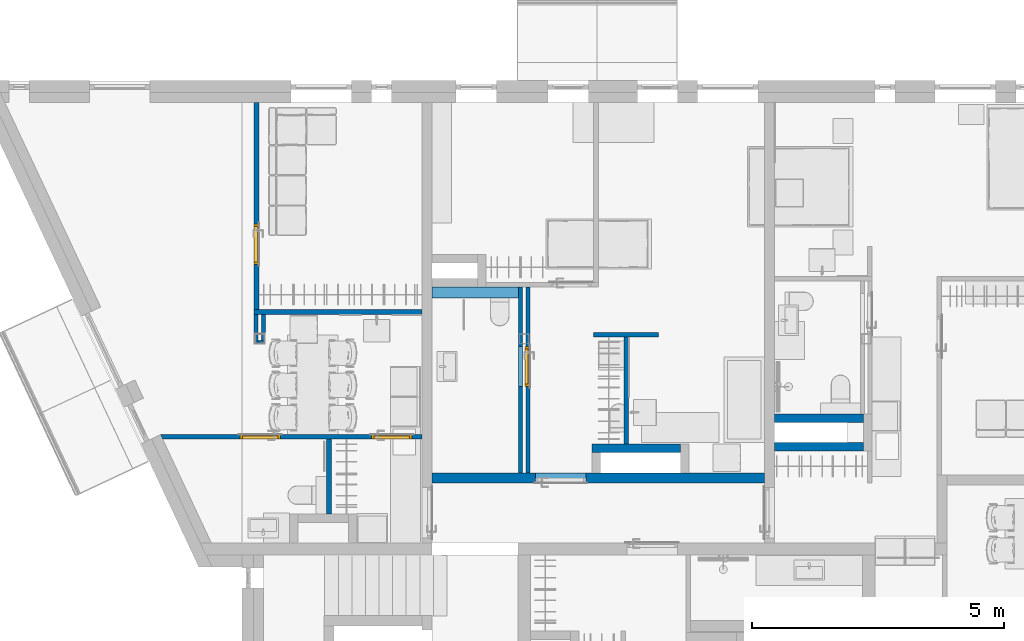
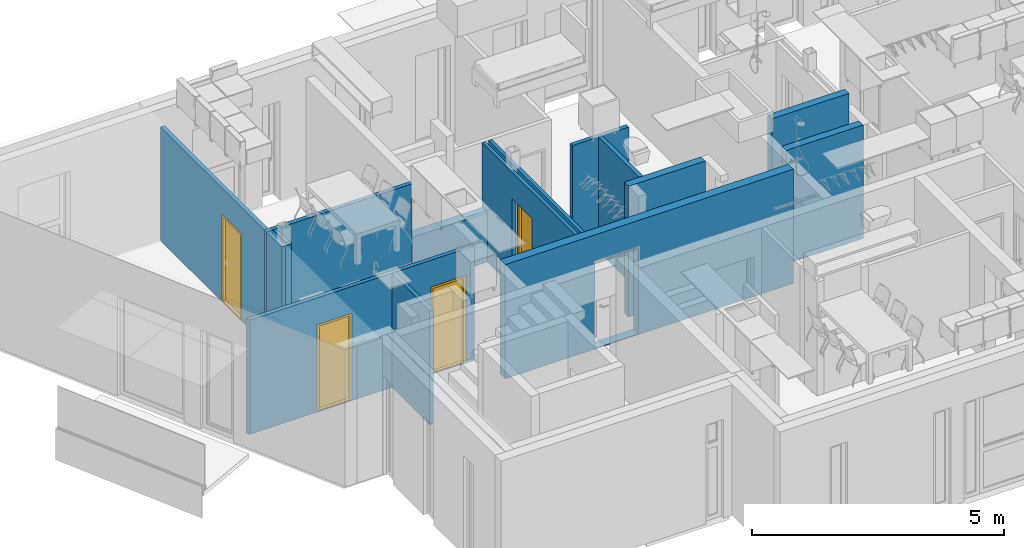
# One storey, part 5 of 68: 16 walls, 4 doors, 6 openings.
"""IFC2X3 building model written with IfcOpenShell, lengths in millimetres."""

from ifc_helpers import new_model, entity, si_unit, converted_unit, direction, frame, frame_2d, origin, place, context, subcontext, project, spatial, polyline, rectangle, outline, extrude, faceted_brep, source, transform, mapped, material, layer, layer_set, layer_usage, type_object, type_shapes, element, fill, save


model = new_model("IFC2X3")

# Units and contexts
model_context = context("Model", 3, precision=0.01, world=origin(), true_north=direction((6.123233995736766e-17, 1.0)))
plan_context = context("Plan", 3, precision=0.01, world=origin(), true_north=direction((6.123233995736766e-17, 1.0)))
body_context = subcontext(model_context, "Body", "Model", "MODEL_VIEW")
ifc_project = project(units=[si_unit("LENGTHUNIT", "METRE", prefix="MILLI"), converted_unit("PLANEANGLEUNIT", "DEGREE", entity("IfcPlaneAngleMeasure", 0.017453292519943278), si_unit("PLANEANGLEUNIT", "RADIAN"), dimensions=[0, 0, 0, 0, 0, 0, 0]), si_unit("AREAUNIT", "SQUARE_METRE")], contexts=[model_context, plan_context])

# Site, building, storey
site_placement = place(None, origin())
site = spatial("IfcSite", under=ifc_project, at=site_placement, Name="Default", CompositionType="ELEMENT")
building_placement = place(site_placement, origin())
building = spatial("IfcBuilding", under=site, at=building_placement, CompositionType="ELEMENT")
storey_placement = place(building_placement, frame((0.0, 0.0, 6295.0)))
storey = spatial("IfcBuildingStorey", under=building, at=storey_placement, Name="3K", CompositionType="ELEMENT", Elevation=6294.999999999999)

# Wall, opening
ifc_material_1 = material(Name="_K. Väisviimistlus. Krohv. Valge")
ifc_layer_1 = layer(ifc_material_1, 5.0)
ifc_material_2 = material(Name="_K. Müüritis. Väikeplokk. Betoon-õõnesplokk")
ifc_layer_2 = layer(ifc_material_2, 190.00000000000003)
ifc_layer_3 = layer(ifc_material_1, 5.0)
ifc_layer_set_1 = layer_set([ifc_layer_1, ifc_layer_2, ifc_layer_3], Name="Basic Wall:SS-01. 190")
ifc_layer_usage_1 = layer_usage(ifc_layer_set_1, "AXIS2", "NEGATIVE", 100.00000000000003)
wall_type_1 = type_object("IfcWallType", Name="Basic Wall:SS-01. 190", PredefinedType="STANDARD", material=ifc_layer_set_1)
wall_1_placement = place(storey_placement, frame((3344.993534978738, 7940.0, -20.0)))
wall_1 = element("IfcWallStandardCase", 1, at=wall_1_placement, inside=storey, type_object=wall_type_1, material=ifc_layer_usage_1, Name="Basic Wall:SS-01. 190", ObjectType="Basic Wall:SS-01. 190", context=body_context, shape_type="SweptSolid", body=[
    extrude(rectangle(XDim=199.99999999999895, YDim=6605.00646502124, at=frame_2d((-60.00000000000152, -421.4980604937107), x_axis=(1.0, 0.0))), frame((2881.00517201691, 60.0, 0.0), z_axis=(0.0, 0.0, 1.0), x_axis=(0.0, 1.0, 0.0)), (0.0, 0.0, 1.0), 2770.000076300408),
])
opening_1_placement = place(storey_placement, frame((3344.993534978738, 7940.0, -20.0)))
element("IfcOpeningElement", 2, at=opening_1_placement, cuts=wall_1, Name="Basic Wall:SS-01. 190:1", ObjectType="Opening", context=body_context, shape_type="SweptSolid", body=[
    extrude(rectangle(XDim=2100.0, YDim=999.999999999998, at=frame_2d((5.684341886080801e-13, 1.0800249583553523e-12), x_axis=(1.0, 0.0))), frame((2559.0064650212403, -100.0, 1070.0), z_axis=(0.0, 1.0, 0.0), x_axis=(0.0, 0.0, 1.0)), (0.0, 0.0, 1.0), 200.0),
])

# Wall
ifc_material_3 = material(Name="_K. Ehitusplaat. Kipsplaat. Erikõva")
ifc_layer_4 = layer(ifc_material_3, 13.000000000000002)
ifc_material_4 = material(Name="_K. Soojustus. Mineraalvill")
ifc_layer_5 = layer(ifc_material_4, 66.0)
ifc_layer_6 = layer(ifc_material_3, 13.000000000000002)
ifc_layer_set_2 = layer_set([ifc_layer_4, ifc_layer_5, ifc_layer_6], Name="Basic Wall:SS-401")
ifc_layer_usage_2 = layer_usage(ifc_layer_set_2, "AXIS2", "NEGATIVE", 46.00000000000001)
wall_type_2 = type_object("IfcWallType", Name="Basic Wall:SS-401", PredefinedType="STANDARD", material=ifc_layer_set_2)
wall_2_placement = place(storey_placement, frame((-188.01000000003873, 11233.0, -20.0)))
element("IfcWallStandardCase", 3, at=wall_2_placement, inside=storey, type_object=wall_type_2, material=ifc_layer_usage_2, Name="Basic Wall:SS-401", ObjectType="Basic Wall:SS-401", context=body_context, shape_type="SweptSolid", body=[
    extrude(rectangle(XDim=3333.0035349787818, YDim=92.00000000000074, at=frame_2d((1666.5017674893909, 3.304023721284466e-13), x_axis=(-1.0, 0.0))), origin(), (0.0, 0.0, 1.0), 2769.999999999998),
])

# Wall, openings, doors
ifc_layer_usage_3 = layer_usage(ifc_layer_set_2, "AXIS2", "NEGATIVE", 46.00000000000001)
wall_3_placement = place(storey_placement, frame((-2047.3824971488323, 8752.0, -20.0)))
wall_3 = element("IfcWallStandardCase", 4, at=wall_3_placement, inside=storey, type_object=wall_type_2, material=ifc_layer_usage_3, Name="Basic Wall:SS-401", ObjectType="Basic Wall:SS-401", context=body_context, shape_type="SweptSolid", body=[
    extrude(outline(polyline([(5192.37603212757, -46.0), (5192.37603212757, 46.0), (0.0, 46.0), (43.12499997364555, -46.0), (3300.376032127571, -46.0), (3392.3760321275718, -46.0), (5192.37603212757, -46.0)])), origin(), (0.0, 0.0, 1.0), 2769.999999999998),
])
opening_2_placement = place(wall_3_placement, frame((2047.3824971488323, -8752.0, 20.0)))
opening_2 = element("IfcOpeningElement", 5, at=opening_2_placement, cuts=wall_3, Name="Basic Wall:SS-401", ObjectType="Opening", context=body_context, shape_type="Brep", body=[
    faceted_brep([(334.9935349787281, 7706.0, 2100.0), (-465.0064650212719, 7706.0, 2100.0), (-465.0064650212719, 7706.0, 0.0), (334.99353497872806, 7706.0, 0.0), (334.99353497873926, 9798.0, 0.0), (334.99353497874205, 9798.0, 2100.0), (-465.0064650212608, 9798.0, 0.0), (-465.0064650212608, 9798.0, 2100.0)], [[[0, 1, 2, 3]], [[3, 4, 5, 0]], [[2, 6, 4, 3]], [[1, 7, 6, 2]], [[5, 7, 1, 0]], [[7, 5, 4, 6]]]),
])
opening_3_placement = place(wall_3_placement, frame((2047.3824971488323, -8752.0, 20.0)))
opening_3 = element("IfcOpeningElement", 6, at=opening_3_placement, cuts=wall_3, Name="Basic Wall:SS-401", ObjectType="Opening", context=body_context, shape_type="Brep", body=[
    faceted_brep([(2944.9935349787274, 7706.0, 2100.0), (2144.9935349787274, 7706.0, 2100.0), (2144.9935349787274, 7706.0, 0.0), (2944.9935349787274, 7706.0, 0.0), (2944.9935349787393, 9798.0, 0.0), (2944.993534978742, 9798.0, 2100.0), (2144.9935349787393, 9798.0, 0.0), (2144.9935349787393, 9798.0, 2100.0)], [[[0, 1, 2, 3]], [[3, 4, 5, 0]], [[2, 6, 4, 3]], [[1, 7, 6, 2]], [[5, 7, 1, 0]], [[7, 5, 4, 6]]]),
])
ifc_material_5 = material(Name="_K. Puit. Peitsitud ja lakitud")
door_style_1 = type_object("IfcDoorStyle", Name="HR_Generic_Hinged_Single:Default. Manteluks lävepakuga. 800 x 2100 mm. Left", ConstructionType="NOTDEFINED", OperationType="NOTDEFINED", ParameterTakesPrecedence=False, Sizeable=False, material=ifc_material_5)
shared_shape_1 = source(origin(), body_context, "Body", "Brep", [
    faceted_brep([(765.0, -1000.0, 20.0), (35.0, -1000.0, 20.0), (35.0, -1030.0, 20.0), (50.0, -1030.0, 20.0), (50.0, -1092.0, 20.0), (750.0, -1092.0, 20.0), (750.0, -1030.0, 20.0), (765.0, -1030.0, 20.0), (35.0, -1000.0, 0.0), (765.0, -1000.0, 0.0), (765.0, -1030.0, 0.0), (750.0, -1030.0, 0.0), (750.0, -1092.0, 0.0), (50.0, -1092.0, 0.0), (50.0, -1030.0, 0.0), (35.0, -1030.0, 0.0)], [[[0, 1, 2, 3, 4, 5, 6, 7]], [[8, 9, 10, 11, 12, 13, 14, 15]], [[1, 0, 9, 8]], [[5, 4, 13, 12]], [[2, 1, 8, 15]], [[0, 7, 10, 9]], [[3, 14, 13, 4]], [[14, 3, 2, 15]], [[6, 11, 10, 7]], [[11, 6, 5, 12]]]),
    faceted_brep([(37.0, -1030.0, 2060.0), (37.0, -1030.0, 25.0), (763.0, -1030.0, 25.0), (763.0, -1030.0, 2060.0), (27.0, -990.0, 25.0), (27.0, -990.0, 2070.0), (773.0, -990.0, 2070.0), (773.0, -990.0, 25.0), (37.0, -1000.0, 2060.0), (37.0, -1000.0, 25.0), (27.0, -1000.0, 25.0), (773.0, -1000.0, 25.0), (763.0, -1000.0, 25.0), (763.0, -1000.0, 2060.0), (27.0, -1000.0, 2070.0), (773.0, -1000.0, 2070.0)], [[[0, 1, 2, 3]], [[4, 5, 6, 7]], [[1, 0, 8, 9]], [[2, 1, 9, 10, 4, 7, 11, 12]], [[3, 2, 12, 13]], [[0, 3, 13, 8]], [[14, 10, 9, 8, 13, 12, 11, 15]], [[6, 5, 14, 15]], [[7, 6, 15, 11]], [[5, 4, 10, 14]]]),
    faceted_brep([(800.0, -1092.0, 0.0), (750.0, -1092.0, 0.0), (750.0, -1030.0, 0.0), (765.0, -1030.0, 0.0), (765.0, -1000.0, 0.0), (800.0, -1000.0, 0.0), (800.0, -1092.0, 2100.0), (0.0, -1092.0, 2100.0), (0.0, -1092.0, 0.0), (50.0, -1092.0, 0.0), (50.0, -1092.0, 2050.0), (750.0, -1092.0, 2050.0), (750.0, -1030.0, 2050.0), (35.0, -1030.0, 2065.0), (765.0, -1030.0, 2065.0), (50.0, -1030.0, 2050.0), (50.0, -1030.0, 0.0), (35.0, -1030.0, 0.0), (765.0, -1000.0, 2065.0), (0.0, -1000.0, 0.0), (0.0, -1000.0, 2100.0), (800.0, -1000.0, 2100.0), (35.0, -1000.0, 2065.0), (35.0, -1000.0, 0.0)], [[[0, 1, 2, 3, 4, 5]], [[1, 0, 6, 7, 8, 9, 10, 11]], [[1, 11, 12, 2]], [[13, 14, 3, 2, 12, 15, 16, 17]], [[3, 14, 18, 4]], [[19, 20, 21, 5, 4, 18, 22, 23]], [[0, 5, 21, 6]], [[8, 19, 23, 17, 16, 9]], [[19, 8, 7, 20]], [[13, 17, 23, 22]], [[10, 9, 16, 15]], [[7, 6, 21, 20]], [[11, 10, 15, 12]], [[14, 13, 22, 18]]]),
])
type_shapes(door_style_1, [shared_shape_1])
door_1_placement = place(opening_3_placement, frame((2144.993534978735, 9798.0, 0.0)))
door_1 = element("IfcDoor", 7, at=door_1_placement, inside=storey, type_object=door_style_1, material=ifc_material_5, Name="HR_Generic_Hinged_Single:Default. Manteluks lävepakuga. 800 x 2100 mm. Left", ObjectType="HR_Generic_Hinged_Single:Default. Manteluks lävepakuga. 800 x 2100 mm. Left", OverallHeight=2130.000000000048, OverallWidth=860.0000000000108, context=body_context, shape_type="MappedRepresentation", body=[
    mapped(shared_shape_1, transform((0.0, 0.0, 0.0), scale=1.0)),
])
fill(opening_3, door_1)
door_style_2 = type_object("IfcDoorStyle", Name="HR_Generic_Hinged_Single:Default. Manteluks lävepakuga. 800 x 2100 mm. Right", ConstructionType="NOTDEFINED", OperationType="NOTDEFINED", ParameterTakesPrecedence=False, Sizeable=False, material=ifc_material_5)
shared_shape_2 = source(origin(), body_context, "Body", "Brep", [
    faceted_brep([(765.0, -1000.0, 20.0), (35.0, -1000.0, 20.0), (35.0, -1030.0, 20.0), (50.0, -1030.0, 20.0), (50.0, -1092.0, 20.0), (750.0, -1092.0, 20.0), (750.0, -1030.0, 20.0), (765.0, -1030.0, 20.0), (35.0, -1000.0, 0.0), (765.0, -1000.0, 0.0), (765.0, -1030.0, 0.0), (750.0, -1030.0, 0.0), (750.0, -1092.0, 0.0), (50.0, -1092.0, 0.0), (50.0, -1030.0, 0.0), (35.0, -1030.0, 0.0)], [[[0, 1, 2, 3, 4, 5, 6, 7]], [[8, 9, 10, 11, 12, 13, 14, 15]], [[1, 0, 9, 8]], [[5, 4, 13, 12]], [[2, 1, 8, 15]], [[0, 7, 10, 9]], [[3, 14, 13, 4]], [[14, 3, 2, 15]], [[6, 11, 10, 7]], [[11, 6, 5, 12]]]),
    faceted_brep([(37.0, -1030.0, 2060.0), (37.0, -1030.0, 25.0), (763.0, -1030.0, 25.0), (763.0, -1030.0, 2060.0), (27.0, -990.0, 25.0), (27.0, -990.0, 2070.0), (773.0, -990.0, 2070.0), (773.0, -990.0, 25.0), (37.0, -1000.0, 2060.0), (37.0, -1000.0, 25.0), (27.0, -1000.0, 25.0), (773.0, -1000.0, 25.0), (763.0, -1000.0, 25.0), (763.0, -1000.0, 2060.0), (27.0, -1000.0, 2070.0), (773.0, -1000.0, 2070.0)], [[[0, 1, 2, 3]], [[4, 5, 6, 7]], [[1, 0, 8, 9]], [[2, 1, 9, 10, 4, 7, 11, 12]], [[3, 2, 12, 13]], [[0, 3, 13, 8]], [[14, 10, 9, 8, 13, 12, 11, 15]], [[6, 5, 14, 15]], [[7, 6, 15, 11]], [[5, 4, 10, 14]]]),
    faceted_brep([(800.0, -1092.0, 0.0), (750.0, -1092.0, 0.0), (750.0, -1030.0, 0.0), (765.0, -1030.0, 0.0), (765.0, -1000.0, 0.0), (800.0, -1000.0, 0.0), (800.0, -1092.0, 2100.0), (0.0, -1092.0, 2100.0), (0.0, -1092.0, 0.0), (50.0, -1092.0, 0.0), (50.0, -1092.0, 2050.0), (750.0, -1092.0, 2050.0), (750.0, -1030.0, 2050.0), (35.0, -1030.0, 2065.0), (765.0, -1030.0, 2065.0), (50.0, -1030.0, 2050.0), (50.0, -1030.0, 0.0), (35.0, -1030.0, 0.0), (765.0, -1000.0, 2065.0), (0.0, -1000.0, 0.0), (0.0, -1000.0, 2100.0), (800.0, -1000.0, 2100.0), (35.0, -1000.0, 2065.0), (35.0, -1000.0, 0.0)], [[[0, 1, 2, 3, 4, 5]], [[1, 0, 6, 7, 8, 9, 10, 11]], [[1, 11, 12, 2]], [[13, 14, 3, 2, 12, 15, 16, 17]], [[3, 14, 18, 4]], [[19, 20, 21, 5, 4, 18, 22, 23]], [[0, 5, 21, 6]], [[8, 19, 23, 17, 16, 9]], [[19, 8, 7, 20]], [[13, 17, 23, 22]], [[10, 9, 16, 15]], [[7, 6, 21, 20]], [[11, 10, 15, 12]], [[14, 13, 22, 18]]]),
])
type_shapes(door_style_2, [shared_shape_2])
door_2_placement = place(opening_2_placement, frame((-465.0064650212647, 9798.0, 0.0)))
door_2 = element("IfcDoor", 8, at=door_2_placement, inside=storey, type_object=door_style_2, material=ifc_material_5, Name="HR_Generic_Hinged_Single:Default. Manteluks lävepakuga. 800 x 2100 mm. Right", ObjectType="HR_Generic_Hinged_Single:Default. Manteluks lävepakuga. 800 x 2100 mm. Right", OverallHeight=2130.000000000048, OverallWidth=860.0000000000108, context=body_context, shape_type="MappedRepresentation", body=[
    mapped(shared_shape_2, transform((0.0, 0.0, 0.0), scale=1.0)),
])
fill(opening_2, door_2)

# Walls
ifc_layer_usage_4 = layer_usage(ifc_layer_set_2, "AXIS2", "NEGATIVE", 46.00000000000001)
wall_4_placement = place(storey_placement, frame((1298.9935349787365, 7220.0, -20.0), z_axis=(0.0, 0.0, 1.0), x_axis=(0.0, 1.0, 0.0)))
element("IfcWallStandardCase", 9, at=wall_4_placement, inside=storey, type_object=wall_type_2, material=ifc_layer_usage_4, Name="Basic Wall:SS-401", ObjectType="Basic Wall:SS-401", context=body_context, shape_type="SweptSolid", body=[
    extrude(rectangle(XDim=1485.9999999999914, YDim=92.0000000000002, at=frame_2d((742.9999999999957, 2.1316282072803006e-14), x_axis=(-1.0, 0.0))), origin(), (0.0, 0.0, 1.0), 2769.999999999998),
])
ifc_layer_usage_5 = layer_usage(ifc_layer_set_2, "AXIS2", "NEGATIVE", 46.00000000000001)
wall_5_placement = place(storey_placement, frame((7204.0, 8610.0, -20.0), z_axis=(0.0, 0.0, 1.0), x_axis=(0.0, 1.0, 0.0)))
element("IfcWallStandardCase", 10, at=wall_5_placement, inside=storey, type_object=wall_type_2, material=ifc_layer_usage_5, Name="Basic Wall:SS-401", ObjectType="Basic Wall:SS-401", context=body_context, shape_type="SweptSolid", body=[
    extrude(rectangle(XDim=2127.999999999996, YDim=92.00000000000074, at=frame_2d((1063.999999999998, -3.872457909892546e-13), x_axis=(-1.0, 0.0))), origin(), (0.0, 0.0, 1.0), 2769.999999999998),
])
ifc_layer_usage_6 = layer_usage(ifc_layer_set_2, "AXIS2", "NEGATIVE", 46.00000000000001)
wall_6_placement = place(storey_placement, frame((6558.0, 10784.0, -20.0)))
element("IfcWallStandardCase", 11, at=wall_6_placement, inside=storey, type_object=wall_type_2, material=ifc_layer_usage_6, Name="Basic Wall:SS-401", ObjectType="Basic Wall:SS-401", context=body_context, shape_type="SweptSolid", body=[
    extrude(rectangle(XDim=1292.0000000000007, YDim=92.00000000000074, at=frame_2d((646.0000000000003, 9.237055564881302e-14), x_axis=(-1.0, 0.0))), origin(), (0.0, 0.0, 1.0), 2769.999999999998),
])

# Wall, opening, door
ifc_layer_usage_7 = layer_usage(ifc_layer_set_2, "AXIS2", "NEGATIVE", 46.00000000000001)
wall_7_placement = place(storey_placement, frame((-142.01000000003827, 11279.0, -20.0), z_axis=(0.0, 0.0, 1.0), x_axis=(0.0, 1.0, 0.0)))
wall_7 = element("IfcWallStandardCase", 12, at=wall_7_placement, inside=storey, type_object=wall_type_2, material=ifc_layer_usage_7, Name="Basic Wall:SS-401", ObjectType="Basic Wall:SS-401", context=body_context, shape_type="SweptSolid", body=[
    extrude(rectangle(XDim=4121.000000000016, YDim=92.0, at=frame_2d((2060.500000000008, 7.105427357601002e-15), x_axis=(-1.0, 0.0))), origin(), (0.0, 0.0, 1.0), 2759.999877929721),
])
opening_4_placement = place(wall_7_placement, frame((-11279.0, -142.01000000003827, 20.0), z_axis=(0.0, 0.0, 1.0), x_axis=(0.0, -1.0, 0.0)))
opening_4 = element("IfcOpeningElement", 13, at=opening_4_placement, cuts=wall_7, Name="Basic Wall:SS-401", ObjectType="Opening", context=body_context, shape_type="Brep", body=[
    faceted_brep([(-1188.0100000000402, 12179.0, 2100.0), (-1188.0100000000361, 12979.0, 2100.0), (-1188.0100000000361, 12979.0, 0.0), (-1188.0100000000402, 12179.0, 0.0), (903.9899999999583, 12179.0, 0.0), (903.9899999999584, 12179.0, 2100.0), (903.9899999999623, 12979.0, 0.0), (903.9899999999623, 12979.0, 2100.0)], [[[0, 1, 2, 3]], [[3, 4, 5, 0]], [[2, 6, 4, 3]], [[1, 7, 6, 2]], [[5, 7, 1, 0]], [[7, 5, 4, 6]]]),
])
door_style_3 = type_object("IfcDoorStyle", Name="HR_Generic_Hinged_Single:Default. Manteluks lävepakuga. 800 x 2100 mm. Left", ConstructionType="NOTDEFINED", OperationType="NOTDEFINED", ParameterTakesPrecedence=False, Sizeable=False, material=ifc_material_5)
shared_shape_3 = source(origin(), body_context, "Body", "Brep", [
    faceted_brep([(765.0, 1092.0, 20.0), (35.0, 1092.0, 20.0), (35.0, 1062.0, 20.0), (50.0, 1062.0, 20.0), (50.0, 1000.0, 20.0), (750.0, 1000.0, 20.0), (750.0, 1062.0, 20.0), (765.0, 1062.0, 20.0), (35.0, 1092.0, 0.0), (765.0, 1092.0, 0.0), (765.0, 1062.0, 0.0), (750.0, 1062.0, 0.0), (750.0, 1000.0, 0.0), (50.0, 1000.0, 0.0), (50.0, 1062.0, 0.0), (35.0, 1062.0, 0.0)], [[[0, 1, 2, 3, 4, 5, 6, 7]], [[8, 9, 10, 11, 12, 13, 14, 15]], [[1, 0, 9, 8]], [[5, 4, 13, 12]], [[2, 1, 8, 15]], [[0, 7, 10, 9]], [[3, 14, 13, 4]], [[14, 3, 2, 15]], [[6, 11, 10, 7]], [[11, 6, 5, 12]]]),
    faceted_brep([(37.0, 1062.0, 2060.0), (37.0, 1062.0, 25.0), (763.0, 1062.0, 25.0), (763.0, 1062.0, 2060.0), (27.0, 1102.0, 25.0), (27.0, 1102.0, 2070.0), (773.0, 1102.0, 2070.0), (773.0, 1102.0, 25.0), (37.0, 1092.0, 2060.0), (37.0, 1092.0, 25.0), (27.0, 1092.0, 25.0), (773.0, 1092.0, 25.0), (763.0, 1092.0, 25.0), (763.0, 1092.0, 2060.0), (27.0, 1092.0, 2070.0), (773.0, 1092.0, 2070.0)], [[[0, 1, 2, 3]], [[4, 5, 6, 7]], [[1, 0, 8, 9]], [[2, 1, 9, 10, 4, 7, 11, 12]], [[3, 2, 12, 13]], [[0, 3, 13, 8]], [[14, 10, 9, 8, 13, 12, 11, 15]], [[6, 5, 14, 15]], [[7, 6, 15, 11]], [[5, 4, 10, 14]]]),
    faceted_brep([(800.0, 1000.0, 0.0), (750.0, 1000.0, 0.0), (750.0, 1062.0, 0.0), (765.0, 1062.0, 0.0), (765.0, 1092.0, 0.0), (800.0, 1092.0, 0.0), (800.0, 1000.0, 2100.0), (0.0, 1000.0, 2100.0), (0.0, 1000.0, 0.0), (50.0, 1000.0, 0.0), (50.0, 1000.0, 2050.0), (750.0, 1000.0, 2050.0), (750.0, 1062.0, 2050.0), (35.0, 1062.0, 2065.0), (765.0, 1062.0, 2065.0), (50.0, 1062.0, 2050.0), (50.0, 1062.0, 0.0), (35.0, 1062.0, 0.0), (765.0, 1092.0, 2065.0), (0.0, 1092.0, 0.0), (0.0, 1092.0, 2100.0), (800.0, 1092.0, 2100.0), (35.0, 1092.0, 2065.0), (35.0, 1092.0, 0.0)], [[[0, 1, 2, 3, 4, 5]], [[1, 0, 6, 7, 8, 9, 10, 11]], [[1, 11, 12, 2]], [[13, 14, 3, 2, 12, 15, 16, 17]], [[3, 14, 18, 4]], [[19, 20, 21, 5, 4, 18, 22, 23]], [[0, 5, 21, 6]], [[8, 19, 23, 17, 16, 9]], [[19, 8, 7, 20]], [[13, 17, 23, 22]], [[10, 9, 16, 15]], [[7, 6, 21, 20]], [[11, 10, 15, 12]], [[14, 13, 22, 18]]]),
])
type_shapes(door_style_3, [shared_shape_3])
door_3_placement = place(opening_4_placement, frame((-1188.0100000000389, 12979.0, 0.0), z_axis=(0.0, 0.0, 1.0), x_axis=(0.0, -1.0, 0.0)))
door_3 = element("IfcDoor", 14, at=door_3_placement, inside=storey, type_object=door_style_3, material=ifc_material_5, Name="HR_Generic_Hinged_Single:Default. Manteluks lävepakuga. 800 x 2100 mm. Left", ObjectType="HR_Generic_Hinged_Single:Default. Manteluks lävepakuga. 800 x 2100 mm. Left", OverallHeight=2130.000000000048, OverallWidth=860.0000000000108, context=body_context, shape_type="MappedRepresentation", body=[
    mapped(shared_shape_3, transform((0.0, 0.0, 0.0), scale=1.0)),
])
fill(opening_4, door_3)

# Walls
ifc_layer_7 = layer(ifc_material_3, 13.000000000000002)
ifc_layer_8 = layer(ifc_material_4, 66.0)
ifc_layer_set_3 = layer_set([ifc_layer_7, ifc_layer_8], Name="Basic Wall:SS-402")
ifc_layer_usage_8 = layer_usage(ifc_layer_set_3, "AXIS2", "NEGATIVE", 39.50000000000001)
wall_type_3 = type_object("IfcWallType", Name="Basic Wall:SS-402", PredefinedType="STANDARD", material=ifc_layer_set_3)
wall_8_placement = place(storey_placement, frame((-148.51000000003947, 10587.0, -20.0), z_axis=(0.0, 0.0, 1.0), x_axis=(0.0, 1.0, 0.0)))
element("IfcWallStandardCase", 15, at=wall_8_placement, inside=storey, type_object=wall_type_3, material=ifc_layer_usage_8, Name="Basic Wall:SS-402", ObjectType="Basic Wall:SS-402", context=body_context, shape_type="SweptSolid", body=[
    extrude(rectangle(XDim=600.0000000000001, YDim=79.00000000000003, at=frame_2d((300.00000000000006, 7.105427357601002e-15), x_axis=(-1.0, 0.0))), origin(), (0.0, 0.0, 1.0), 2769.999999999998),
])
ifc_layer_usage_9 = layer_usage(ifc_layer_set_3, "AXIS2", "POSITIVE", -39.50000000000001)
wall_9_placement = place(storey_placement, frame((-1.5100000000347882, 10666.0, -20.0), z_axis=(0.0, 0.0, 1.0), x_axis=(0.0, 1.0, 0.0)))
element("IfcWallStandardCase", 16, at=wall_9_placement, inside=storey, type_object=wall_type_3, material=ifc_layer_usage_9, Name="Basic Wall:SS-402", ObjectType="Basic Wall:SS-402", context=body_context, shape_type="SweptSolid", body=[
    extrude(rectangle(XDim=521.0000000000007, YDim=79.00000000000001, at=frame_2d((260.50000000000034, 0.0), x_axis=(-1.0, 0.0))), origin(), (0.0, 0.0, 1.0), 2769.999999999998),
])
ifc_layer_usage_10 = layer_usage(ifc_layer_set_3, "AXIS2", "POSITIVE", -39.50000000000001)
wall_10_placement = place(storey_placement, frame((-109.01000000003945, 10626.499999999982, -20.0)))
element("IfcWallStandardCase", 17, at=wall_10_placement, inside=storey, type_object=wall_type_3, material=ifc_layer_usage_10, Name="Basic Wall:SS-402", ObjectType="Basic Wall:SS-402", context=body_context, shape_type="SweptSolid", body=[
    extrude(rectangle(XDim=147.00000000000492, YDim=78.99999999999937, at=frame_2d((73.50000000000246, 2.0605739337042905e-13), x_axis=(-1.0, 0.0))), origin(), (0.0, 0.0, 1.0), 2769.999999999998),
])

# Wall, opening, door
ifc_layer_usage_11 = layer_usage(ifc_layer_set_3, "AXIS2", "NEGATIVE", 39.50000000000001)
wall_11_placement = place(storey_placement, frame((5248.499999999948, 11730.0, -20.0), z_axis=(0.0, 0.0, 1.0), x_axis=(0.0, -1.0, 0.0)))
wall_11 = element("IfcWallStandardCase", 18, at=wall_11_placement, inside=storey, type_object=wall_type_3, material=ifc_layer_usage_11, Name="Basic Wall:SS-402", ObjectType="Basic Wall:SS-402", context=body_context, shape_type="SweptSolid", body=[
    extrude(rectangle(XDim=3690.0000000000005, YDim=79.00000000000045, at=frame_2d((1845.0000000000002, -5.613287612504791e-13), x_axis=(-1.0, 0.0))), origin(), (0.0, 0.0, 1.0), 2769.999999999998),
])
opening_5_placement = place(wall_11_placement, frame((11730.0, -5248.499999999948, 20.0), z_axis=(0.0, 0.0, 1.0), x_axis=(0.0, 1.0, 0.0)))
opening_5 = element("IfcOpeningElement", 19, at=opening_5_placement, cuts=wall_11, Name="Basic Wall:SS-402", ObjectType="Opening", context=body_context, shape_type="Brep", body=[
    faceted_brep([(4196.0, 9750.0, 2100.0), (4196.0, 10550.0, 2100.0), (4196.0, 10550.0, 0.0), (4196.0, 9750.0, 0.0), (6288.0, 9750.0, 0.0), (6288.0, 9750.0, 2100.0), (6288.0, 10550.0, 0.0), (6288.0, 10550.0, 2100.0)], [[[0, 1, 2, 3]], [[3, 4, 5, 0]], [[2, 6, 4, 3]], [[1, 7, 6, 2]], [[5, 7, 1, 0]], [[7, 5, 4, 6]]]),
])
door_style_4 = type_object("IfcDoorStyle", Name="HR_Generic_Hinged_Single:Default. Manteluks lävepakuga. 800 x 2100 mm. Left", ConstructionType="NOTDEFINED", OperationType="NOTDEFINED", ParameterTakesPrecedence=False, Sizeable=False, material=ifc_material_5)
shared_shape_4 = source(origin(), body_context, "Body", "Brep", [
    faceted_brep([(765.0, -1000.0, 20.0), (35.0, -1000.0, 20.0), (35.0, -1030.0, 20.0), (50.0, -1030.0, 20.0), (50.0, -1092.0, 20.0), (750.0, -1092.0, 20.0), (750.0, -1030.0, 20.0), (765.0, -1030.0, 20.0), (35.0, -1000.0, 0.0), (765.0, -1000.0, 0.0), (765.0, -1030.0, 0.0), (750.0, -1030.0, 0.0), (750.0, -1092.0, 0.0), (50.0, -1092.0, 0.0), (50.0, -1030.0, 0.0), (35.0, -1030.0, 0.0)], [[[0, 1, 2, 3, 4, 5, 6, 7]], [[8, 9, 10, 11, 12, 13, 14, 15]], [[1, 0, 9, 8]], [[5, 4, 13, 12]], [[2, 1, 8, 15]], [[0, 7, 10, 9]], [[3, 14, 13, 4]], [[14, 3, 2, 15]], [[6, 11, 10, 7]], [[11, 6, 5, 12]]]),
    faceted_brep([(37.0, -1030.0, 2060.0), (37.0, -1030.0, 25.0), (763.0, -1030.0, 25.0), (763.0, -1030.0, 2060.0), (27.0, -990.0, 25.0), (27.0, -990.0, 2070.0), (773.0, -990.0, 2070.0), (773.0, -990.0, 25.0), (37.0, -1000.0, 2060.0), (37.0, -1000.0, 25.0), (27.0, -1000.0, 25.0), (773.0, -1000.0, 25.0), (763.0, -1000.0, 25.0), (763.0, -1000.0, 2060.0), (27.0, -1000.0, 2070.0), (773.0, -1000.0, 2070.0)], [[[0, 1, 2, 3]], [[4, 5, 6, 7]], [[1, 0, 8, 9]], [[2, 1, 9, 10, 4, 7, 11, 12]], [[3, 2, 12, 13]], [[0, 3, 13, 8]], [[14, 10, 9, 8, 13, 12, 11, 15]], [[6, 5, 14, 15]], [[7, 6, 15, 11]], [[5, 4, 10, 14]]]),
    faceted_brep([(800.0, -1092.0, 0.0), (750.0, -1092.0, 0.0), (750.0, -1030.0, 0.0), (765.0, -1030.0, 0.0), (765.0, -1000.0, 0.0), (800.0, -1000.0, 0.0), (800.0, -1092.0, 2100.0), (0.0, -1092.0, 2100.0), (0.0, -1092.0, 0.0), (50.0, -1092.0, 0.0), (50.0, -1092.0, 2050.0), (750.0, -1092.0, 2050.0), (750.0, -1030.0, 2050.0), (35.0, -1030.0, 2065.0), (765.0, -1030.0, 2065.0), (50.0, -1030.0, 2050.0), (50.0, -1030.0, 0.0), (35.0, -1030.0, 0.0), (765.0, -1000.0, 2065.0), (0.0, -1000.0, 0.0), (0.0, -1000.0, 2100.0), (800.0, -1000.0, 2100.0), (35.0, -1000.0, 2065.0), (35.0, -1000.0, 0.0)], [[[0, 1, 2, 3, 4, 5]], [[1, 0, 6, 7, 8, 9, 10, 11]], [[1, 11, 12, 2]], [[13, 14, 3, 2, 12, 15, 16, 17]], [[3, 14, 18, 4]], [[19, 20, 21, 5, 4, 18, 22, 23]], [[0, 5, 21, 6]], [[8, 19, 23, 17, 16, 9]], [[19, 8, 7, 20]], [[13, 17, 23, 22]], [[10, 9, 16, 15]], [[7, 6, 21, 20]], [[11, 10, 15, 12]], [[14, 13, 22, 18]]]),
])
type_shapes(door_style_4, [shared_shape_4])
door_4_placement = place(opening_5_placement, frame((6288.0, 10550.0, 0.0), z_axis=(0.0, 0.0, 1.0), x_axis=(0.0, -1.0, 0.0)))
door_4 = element("IfcDoor", 20, at=door_4_placement, inside=storey, type_object=door_style_4, material=ifc_material_5, Name="HR_Generic_Hinged_Single:Default. Manteluks lävepakuga. 800 x 2100 mm. Left", ObjectType="HR_Generic_Hinged_Single:Default. Manteluks lävepakuga. 800 x 2100 mm. Left", OverallHeight=2130.000000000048, OverallWidth=860.0000000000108, context=body_context, shape_type="MappedRepresentation", body=[
    mapped(shared_shape_4, transform((0.0, 0.0, 0.0), scale=1.0)),
])
fill(opening_5, door_4)

# Wall, opening
ifc_layer_usage_12 = layer_usage(ifc_layer_set_3, "AXIS2", "POSITIVE", -39.50000000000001)
wall_12_placement = place(storey_placement, frame((5101.499999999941, 11730.0, -20.0), z_axis=(0.0, 0.0, 1.0), x_axis=(0.0, -1.0, 0.0)))
wall_12 = element("IfcWallStandardCase", 21, at=wall_12_placement, inside=storey, type_object=wall_type_3, material=ifc_layer_usage_12, Name="Basic Wall:SS-402", ObjectType="Basic Wall:SS-402", context=body_context, shape_type="SweptSolid", body=[
    extrude(rectangle(XDim=3689.999999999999, YDim=79.00000000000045, at=frame_2d((1844.9999999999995, -3.232969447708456e-13), x_axis=(-1.0, 0.0))), origin(), (0.0, 0.0, 1.0), 2769.999999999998),
])
opening_6_placement = place(wall_12_placement, frame((11730.0, -5101.5000000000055, 20.0)))
element("IfcOpeningElement", 22, at=opening_6_placement, cuts=wall_12, Name="Basic Wall:SS-402", ObjectType="Opening", context=body_context, shape_type="Brep", body=[
    faceted_brep([(-9750.0, 4196.0, 2100.0), (-10550.0, 4196.0, 2100.0), (-10550.0, 4196.0, 0.0), (-9750.0, 4196.0, 0.0), (-9750.0, 6288.0, 0.0), (-9750.0, 6288.0, 2100.0), (-10550.0, 6288.0, 0.0), (-10550.0, 6288.0, 2100.0)], [[[0, 1, 2, 3]], [[3, 4, 5, 0]], [[2, 6, 4, 3]], [[1, 7, 6, 2]], [[5, 7, 1, 0]], [[7, 5, 4, 6]]]),
])

# Walls
ifc_layer_9 = layer(ifc_material_1, 10.0)
ifc_material_6 = material(Name="_K. Müüritis. Väikeplokk. Kergkruusplokk")
ifc_layer_10 = layer(ifc_material_6, 150.0)
ifc_layer_11 = layer(ifc_material_1, 10.0)
ifc_layer_set_4 = layer_set([ifc_layer_9, ifc_layer_10, ifc_layer_11], Name="Basic Wall:SS-03. Šahti sein")
ifc_layer_usage_13 = layer_usage(ifc_layer_set_4, "AXIS2", "NEGATIVE", 85.00000000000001)
wall_type_4 = type_object("IfcWallType", Name="Basic Wall:SS-03. Šahti sein", PredefinedType="STANDARD", material=ifc_layer_set_4)
wall_13_placement = place(storey_placement, frame((10150.0, 9125.0, 0.0)))
element("IfcWallStandardCase", 23, at=wall_13_placement, inside=storey, type_object=wall_type_4, material=ifc_layer_usage_13, Name="Basic Wall:SS-03. Šahti sein", ObjectType="Basic Wall:SS-03. Šahti sein", context=body_context, shape_type="SweptSolid", body=[
    extrude(rectangle(XDim=1768.0000000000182, YDim=170.00000000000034, at=frame_2d((884.0000000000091, 1.3500311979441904e-13), x_axis=(-1.0, 0.0))), origin(), (0.0, 0.0, 1.0), 3169.999999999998),
])
ifc_layer_usage_14 = layer_usage(ifc_layer_set_4, "AXIS2", "POSITIVE", -85.00000000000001)
wall_14_placement = place(storey_placement, frame((10150.0, 8555.0, 0.0)))
element("IfcWallStandardCase", 24, at=wall_14_placement, inside=storey, type_object=wall_type_4, material=ifc_layer_usage_14, Name="Basic Wall:SS-03. Šahti sein", ObjectType="Basic Wall:SS-03. Šahti sein", context=body_context, shape_type="SweptSolid", body=[
    extrude(rectangle(XDim=1768.0000000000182, YDim=170.00000000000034, at=frame_2d((884.0000000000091, -2.5579538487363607e-13), x_axis=(-1.0, 0.0))), origin(), (0.0, 0.0, 1.0), 2749.999877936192),
])
ifc_layer_usage_15 = layer_usage(ifc_layer_set_4, "AXIS2", "NEGATIVE", 85.00000000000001)
wall_15_placement = place(storey_placement, frame((6520.0, 8525.0, 0.0)))
element("IfcWallStandardCase", 25, at=wall_15_placement, inside=storey, type_object=wall_type_4, material=ifc_layer_usage_15, Name="Basic Wall:SS-03. Šahti sein", ObjectType="Basic Wall:SS-03. Šahti sein", context=body_context, shape_type="SweptSolid", body=[
    extrude(rectangle(XDim=1759.999999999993, YDim=170.00000000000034, at=frame_2d((879.9999999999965, 1.2789769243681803e-13), x_axis=(-1.0, 0.0))), origin(), (0.0, 0.0, 1.0), 3169.999999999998),
])
ifc_layer_12 = layer(ifc_material_3, 13.000000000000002)
ifc_material_7 = material(Name="_K. Õhk. Roov. Fassaadikatte alusroov. Vertikaalne. 25 mm")
ifc_layer_13 = layer(ifc_material_7, 200.0)
ifc_layer_set_5 = layer_set([ifc_layer_12, ifc_layer_13], Name="Basic Wall:SS-403")
ifc_layer_usage_16 = layer_usage(ifc_layer_set_5, "AXIS2", "POSITIVE", -106.5)
wall_type_5 = type_object("IfcWallType", Name="Basic Wall:SS-403", PredefinedType="STANDARD", material=ifc_layer_set_5)
wall_16_placement = place(storey_placement, frame((3344.993534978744, 11623.500000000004, -20.0)))
element("IfcWallStandardCase", 26, at=wall_16_placement, inside=storey, type_object=wall_type_5, material=ifc_layer_usage_16, Name="Basic Wall:SS-403", ObjectType="Basic Wall:SS-403", context=body_context, shape_type="SweptSolid", body=[
    extrude(rectangle(XDim=1717.0064650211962, YDim=212.9999999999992, at=frame_2d((858.5032325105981, -2.4868995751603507e-13), x_axis=(-1.0, 0.0))), origin(), (0.0, 0.0, 1.0), 1200.0),
])

save(model, "model.ifc")
